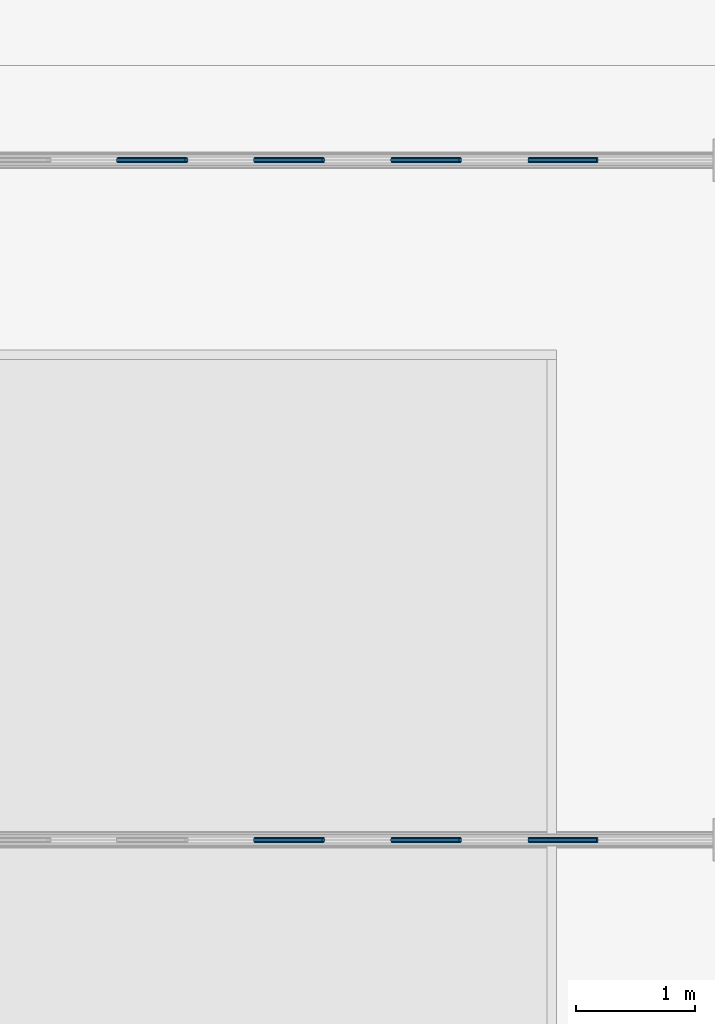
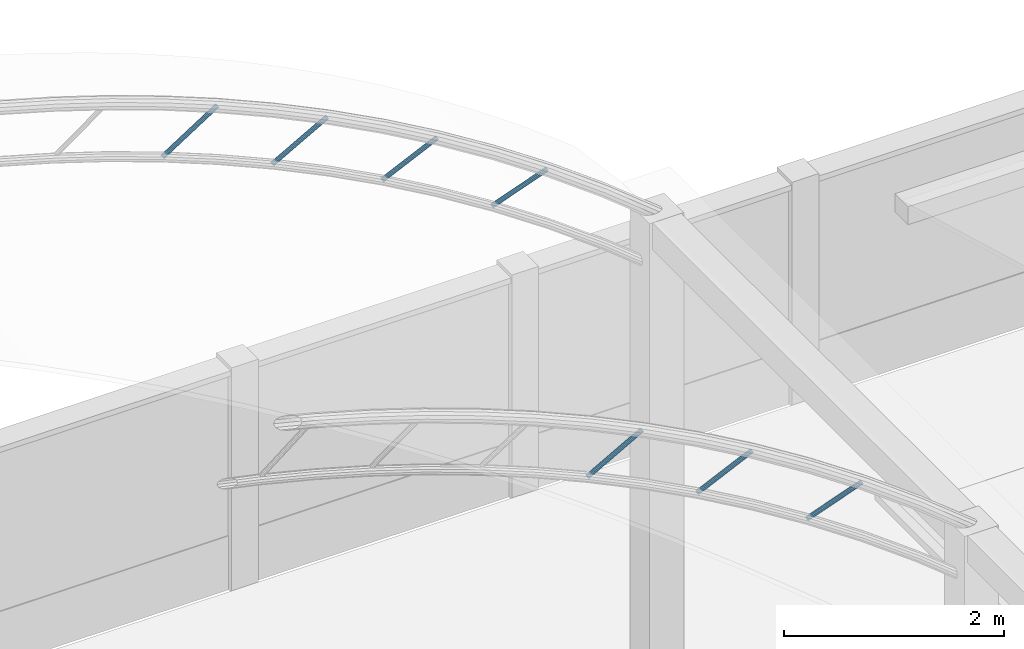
# One storey, part 38 of 177: 7 beams.
"""IFC4 building model written with IfcOpenShell, lengths in metres."""

from ifc_helpers import new_model, si_unit, origin, origin_with_axes, place, context, subcontext, project, spatial, triangles, element, save


model = new_model("IFC4")

# Units and contexts
model_context = context("Model", 3, precision=1e-05, world=origin_with_axes())
body_context = subcontext(model_context, "Body", "Model", "MODEL_VIEW")
ifc_project = project(units=[si_unit("LENGTHUNIT", "METRE"), si_unit("AREAUNIT", "SQUARE_METRE"), si_unit("VOLUMEUNIT", "CUBIC_METRE"), si_unit("PLANEANGLEUNIT", "RADIAN")], contexts=[model_context])

# Site, building, storey
site_placement = place(None, origin_with_axes())
site = spatial("IfcSite", under=ifc_project, at=site_placement, Name="Predio Los Mangos - Morales, San Martín", CompositionType="ELEMENT")
building_placement = place(site_placement, origin())
building = spatial("IfcBuilding", under=site, at=building_placement, Name="Hogar de Refugio Temporal", CompositionType="ELEMENT")
storey_placement = place(building_placement, origin())
storey = spatial("IfcBuildingStorey", under=building, at=storey_placement, Name="NIVEL 1 (NPT +0.00)", CompositionType="ELEMENT", Elevation=0.0)

# Beams
beam_1_placement = place(storey_placement, origin())
element("IfcBeam", 1, at=beam_1_placement, inside=storey, Name="diag", ObjectType="Viga", PredefinedType="BEAM", context=body_context, shape_type="Tessellation", body=[
    triangles([(22.5514, 121.2883, 7.9187), (22.547, 121.2792, 7.9267), (22.5453, 121.2667, 7.9296), (22.547, 121.2542, 7.9267), (22.5514, 121.245, 7.9187), (22.5575, 121.2417, 7.9077), (22.5636, 121.245, 7.8968), (22.568, 121.2542, 7.8888), (22.5697, 121.2667, 7.8859), (22.568, 121.2792, 7.8888), (22.5636, 121.2883, 7.8968), (22.5575, 121.2917, 7.9077), (23.1289, 121.2883, 8.2407), (23.1245, 121.2792, 8.2487), (23.1228, 121.2667, 8.2517), (23.1245, 121.2542, 8.2487), (23.1289, 121.245, 8.2407), (23.135, 121.2417, 8.2298), (23.1411, 121.245, 8.2189), (23.1455, 121.2542, 8.2109), (23.1472, 121.2667, 8.208), (23.1455, 121.2792, 8.2109), (23.1411, 121.2883, 8.2189), (23.135, 121.2917, 8.2298)], [[1, 13, 24], [1, 24, 12], [2, 14, 13], [2, 13, 1], [3, 15, 14], [3, 14, 2], [4, 16, 15], [4, 15, 3], [5, 17, 16], [5, 16, 4], [6, 18, 17], [6, 17, 5], [7, 19, 18], [7, 18, 6], [8, 20, 19], [8, 19, 7], [9, 21, 20], [9, 20, 8], [10, 22, 21], [10, 21, 9], [11, 23, 22], [11, 22, 10], [12, 24, 23], [12, 23, 11]]),
])
beam_2_placement = place(storey_placement, origin())
element("IfcBeam", 2, at=beam_2_placement, inside=storey, Name="diag", ObjectType="Viga", PredefinedType="BEAM", context=body_context, shape_type="Tessellation", body=[
    triangles([(23.7072, 121.2883, 7.3372), (23.7034, 121.2792, 7.3455), (23.702, 121.2667, 7.3485), (23.7034, 121.2542, 7.3455), (23.7072, 121.245, 7.3372), (23.7125, 121.2417, 7.3259), (23.7178, 121.245, 7.3145), (23.7216, 121.2542, 7.3062), (23.723, 121.2667, 7.3032), (23.7216, 121.2792, 7.3062), (23.7178, 121.2883, 7.3145), (23.7125, 121.2917, 7.3259), (24.2847, 121.2883, 7.6056), (24.2809, 121.2792, 7.6139), (24.2795, 121.2667, 7.617), (24.2809, 121.2542, 7.6139), (24.2847, 121.245, 7.6056), (24.29, 121.2417, 7.5943), (24.2953, 121.245, 7.583), (24.2991, 121.2542, 7.5747), (24.3005, 121.2667, 7.5716), (24.2991, 121.2792, 7.5747), (24.2953, 121.2883, 7.583), (24.29, 121.2917, 7.5943)], [[1, 13, 24], [1, 24, 12], [2, 14, 13], [2, 13, 1], [3, 15, 14], [3, 14, 2], [4, 16, 15], [4, 15, 3], [5, 17, 16], [5, 16, 4], [6, 18, 17], [6, 17, 5], [7, 19, 18], [7, 18, 6], [8, 20, 19], [8, 19, 7], [9, 21, 20], [9, 20, 8], [10, 22, 21], [10, 21, 9], [11, 23, 22], [11, 22, 10], [12, 24, 23], [12, 23, 11]]),
])
beam_3_placement = place(storey_placement, origin())
element("IfcBeam", 3, at=beam_3_placement, inside=storey, Name="diag", ObjectType="Viga", PredefinedType="BEAM", context=body_context, shape_type="Tessellation", body=[
    triangles([(24.8633, 121.2883, 6.6451), (24.8602, 121.2792, 6.6537), (24.859, 121.2667, 6.6569), (24.8602, 121.2542, 6.6537), (24.8633, 121.245, 6.6451), (24.8675, 121.2417, 6.6333), (24.8717, 121.245, 6.6216), (24.8748, 121.2542, 6.613), (24.876, 121.2667, 6.6098), (24.8748, 121.2792, 6.613), (24.8717, 121.2883, 6.6216), (24.8675, 121.2917, 6.6333), (25.4408, 121.2883, 6.8526), (25.4377, 121.2792, 6.8612), (25.4365, 121.2667, 6.8643), (25.4377, 121.2542, 6.8612), (25.4408, 121.245, 6.8526), (25.445, 121.2417, 6.8408), (25.4492, 121.245, 6.829), (25.4523, 121.2542, 6.8204), (25.4535, 121.2667, 6.8173), (25.4523, 121.2792, 6.8204), (25.4492, 121.2883, 6.829), (25.445, 121.2917, 6.8408)], [[1, 13, 24], [1, 24, 12], [2, 14, 13], [2, 13, 1], [3, 15, 14], [3, 14, 2], [4, 16, 15], [4, 15, 3], [5, 17, 16], [5, 16, 4], [6, 18, 17], [6, 17, 5], [7, 19, 18], [7, 18, 6], [8, 20, 19], [8, 19, 7], [9, 21, 20], [9, 20, 8], [10, 22, 21], [10, 21, 9], [11, 23, 22], [11, 22, 10], [12, 24, 23], [12, 23, 11]]),
])
beam_4_placement = place(storey_placement, origin())
element("IfcBeam", 4, at=beam_4_placement, inside=storey, Name="diag", ObjectType="Viga", PredefinedType="BEAM", context=body_context, shape_type="Tessellation", body=[
    triangles([(21.3958, 127.0217, 8.401), (21.3908, 127.0125, 8.4087), (21.389, 127.0, 8.4115), (21.3908, 126.9875, 8.4087), (21.3958, 126.9783, 8.401), (21.4025, 126.975, 8.3905), (21.4092, 126.9783, 8.38), (21.4142, 126.9875, 8.3723), (21.416, 127.0, 8.3695), (21.4142, 127.0125, 8.3723), (21.4092, 127.0217, 8.38), (21.4025, 127.025, 8.3905), (21.9733, 127.0217, 8.7715), (21.9683, 127.0125, 8.7792), (21.9665, 127.0, 8.782), (21.9683, 126.9875, 8.7792), (21.9733, 126.9783, 8.7715), (21.98, 126.975, 8.7609), (21.9867, 126.9783, 8.7504), (21.9917, 126.9875, 8.7427), (21.9935, 127.0, 8.7399), (21.9917, 127.0125, 8.7427), (21.9867, 127.0217, 8.7504), (21.98, 127.025, 8.7609)], [[1, 13, 24], [1, 24, 12], [2, 14, 13], [2, 13, 1], [3, 15, 14], [3, 14, 2], [4, 16, 15], [4, 15, 3], [5, 17, 16], [5, 16, 4], [6, 18, 17], [6, 17, 5], [7, 19, 18], [7, 18, 6], [8, 20, 19], [8, 19, 7], [9, 21, 20], [9, 20, 8], [10, 22, 21], [10, 21, 9], [11, 23, 22], [11, 22, 10], [12, 24, 23], [12, 23, 11]]),
])
beam_5_placement = place(storey_placement, origin())
element("IfcBeam", 5, at=beam_5_placement, inside=storey, Name="diag", ObjectType="Viga", PredefinedType="BEAM", context=body_context, shape_type="Tessellation", body=[
    triangles([(22.5514, 127.0217, 7.9187), (22.547, 127.0125, 7.9267), (22.5453, 127.0, 7.9296), (22.547, 126.9875, 7.9267), (22.5514, 126.9783, 7.9187), (22.5575, 126.975, 7.9077), (22.5636, 126.9783, 7.8968), (22.568, 126.9875, 7.8888), (22.5697, 127.0, 7.8859), (22.568, 127.0125, 7.8888), (22.5636, 127.0217, 7.8968), (22.5575, 127.025, 7.9077), (23.1289, 127.0217, 8.2407), (23.1245, 127.0125, 8.2487), (23.1228, 127.0, 8.2517), (23.1245, 126.9875, 8.2487), (23.1289, 126.9783, 8.2407), (23.135, 126.975, 8.2298), (23.1411, 126.9783, 8.2189), (23.1455, 126.9875, 8.2109), (23.1472, 127.0, 8.208), (23.1455, 127.0125, 8.2109), (23.1411, 127.0217, 8.2189), (23.135, 127.025, 8.2298)], [[1, 13, 24], [1, 24, 12], [2, 14, 13], [2, 13, 1], [3, 15, 14], [3, 14, 2], [4, 16, 15], [4, 15, 3], [5, 17, 16], [5, 16, 4], [6, 18, 17], [6, 17, 5], [7, 19, 18], [7, 18, 6], [8, 20, 19], [8, 19, 7], [9, 21, 20], [9, 20, 8], [10, 22, 21], [10, 21, 9], [11, 23, 22], [11, 22, 10], [12, 24, 23], [12, 23, 11]]),
])
beam_6_placement = place(storey_placement, origin())
element("IfcBeam", 6, at=beam_6_placement, inside=storey, Name="diag", ObjectType="Viga", PredefinedType="BEAM", context=body_context, shape_type="Tessellation", body=[
    triangles([(23.7072, 127.0217, 7.3372), (23.7034, 127.0125, 7.3455), (23.702, 127.0, 7.3485), (23.7034, 126.9875, 7.3455), (23.7072, 126.9783, 7.3372), (23.7125, 126.975, 7.3259), (23.7178, 126.9783, 7.3145), (23.7216, 126.9875, 7.3062), (23.723, 127.0, 7.3032), (23.7216, 127.0125, 7.3062), (23.7178, 127.0217, 7.3145), (23.7125, 127.025, 7.3259), (24.2847, 127.0217, 7.6056), (24.2809, 127.0125, 7.6139), (24.2795, 127.0, 7.617), (24.2809, 126.9875, 7.6139), (24.2847, 126.9783, 7.6056), (24.29, 126.975, 7.5943), (24.2953, 126.9783, 7.583), (24.2991, 126.9875, 7.5747), (24.3005, 127.0, 7.5716), (24.2991, 127.0125, 7.5747), (24.2953, 127.0217, 7.583), (24.29, 127.025, 7.5943)], [[1, 13, 24], [1, 24, 12], [2, 14, 13], [2, 13, 1], [3, 15, 14], [3, 14, 2], [4, 16, 15], [4, 15, 3], [5, 17, 16], [5, 16, 4], [6, 18, 17], [6, 17, 5], [7, 19, 18], [7, 18, 6], [8, 20, 19], [8, 19, 7], [9, 21, 20], [9, 20, 8], [10, 22, 21], [10, 21, 9], [11, 23, 22], [11, 22, 10], [12, 24, 23], [12, 23, 11]]),
])
beam_7_placement = place(storey_placement, origin())
element("IfcBeam", 7, at=beam_7_placement, inside=storey, Name="diag", ObjectType="Viga", PredefinedType="BEAM", context=body_context, shape_type="Tessellation", body=[
    triangles([(24.8633, 127.0217, 6.6451), (24.8602, 127.0125, 6.6537), (24.859, 127.0, 6.6569), (24.8602, 126.9875, 6.6537), (24.8633, 126.9783, 6.6451), (24.8675, 126.975, 6.6333), (24.8717, 126.9783, 6.6216), (24.8748, 126.9875, 6.613), (24.876, 127.0, 6.6098), (24.8748, 127.0125, 6.613), (24.8717, 127.0217, 6.6216), (24.8675, 127.025, 6.6333), (25.4408, 127.0217, 6.8526), (25.4377, 127.0125, 6.8612), (25.4365, 127.0, 6.8643), (25.4377, 126.9875, 6.8612), (25.4408, 126.9783, 6.8526), (25.445, 126.975, 6.8408), (25.4492, 126.9783, 6.829), (25.4523, 126.9875, 6.8204), (25.4535, 127.0, 6.8173), (25.4523, 127.0125, 6.8204), (25.4492, 127.0217, 6.829), (25.445, 127.025, 6.8408)], [[1, 13, 24], [1, 24, 12], [2, 14, 13], [2, 13, 1], [3, 15, 14], [3, 14, 2], [4, 16, 15], [4, 15, 3], [5, 17, 16], [5, 16, 4], [6, 18, 17], [6, 17, 5], [7, 19, 18], [7, 18, 6], [8, 20, 19], [8, 19, 7], [9, 21, 20], [9, 20, 8], [10, 22, 21], [10, 21, 9], [11, 23, 22], [11, 22, 10], [12, 24, 23], [12, 23, 11]]),
])

save(model, "model.ifc")
